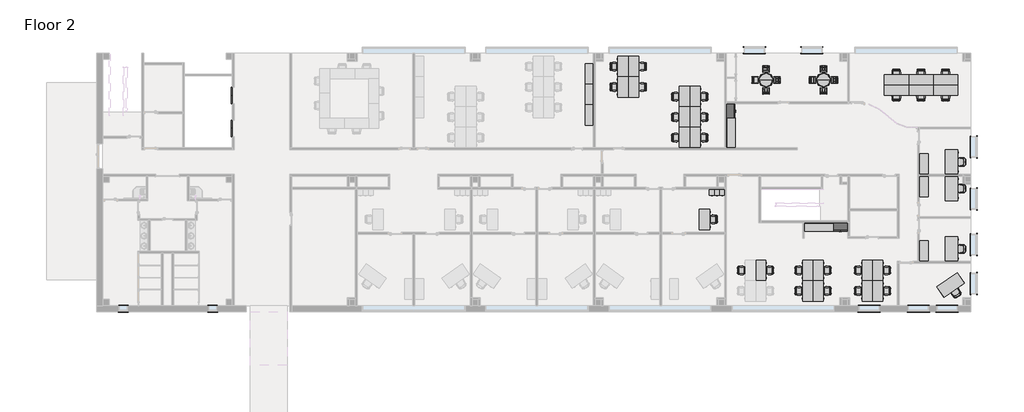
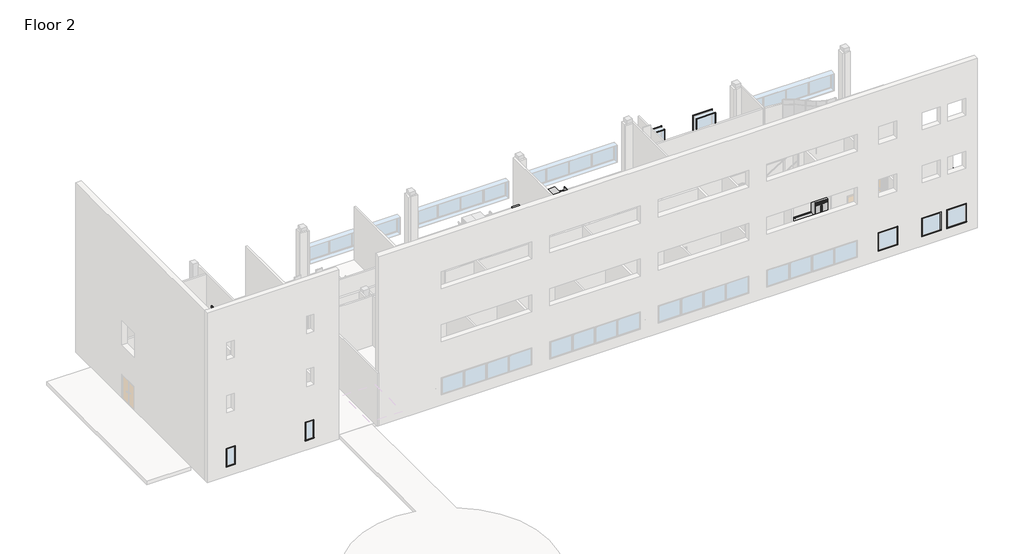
# One storey, part 7 of 7: 86 furniture elements, 26 proxies.
"""IFC4 building model written with IfcOpenShell, lengths in millimetres."""

from ifc_helpers import new_model, si_unit, origin, place, context, project, spatial, transform, mapped, element, save
from components import proxy_ae548678, proxy_0447ab4b, trim_window_exterior_flat_with_sill_05ca63db, trim_window_exterior_flat_with_sill_4912eb0d, trim_window_interior_flat_picture_frame_a1a3bc7c, trim_window_interior_flat_picture_frame_978fd00d, furniture_338da5bd, furniture_48aa8ab9, chair_executive_chair_executive_8d69e98c, chair_executive_chair_executive_a5be4872, chair_stacking_chair_stacking_76f41a28, chair_task_arms_chair_task_arms_fa5a08ef, chair_task_arms_chair_task_arms_3c69ee15, furniture_b725675f, furniture_6bf0da8d, furniture_0f0bb7e9, furniture_a9e97cbc, furniture_f1eb905c, furniture_e30ff25b, furniture_33f25304, furniture_65204735, furniture_a5b052b6, furniture_457a56de, furniture_77f0a01d

model = new_model("IFC4")

# Units and contexts
model_context = context("Model", 3, world=origin())
ifc_project = project(units=[si_unit("LENGTHUNIT", "METRE", prefix="MILLI")], contexts=[model_context])

# Site, building, storey
site = spatial("IfcSite", under=ifc_project)
building = spatial("IfcBuilding", under=site)
storey = spatial("IfcBuildingStorey", under=building, Name="Floor 2", Elevation=5486.4)

# Proxies
placement = place(None, origin())
proxy_shape = proxy_ae548678(model_context)
element("IfcBuildingElementProxy", 1, Name="Elevator-Center : 72\" x 114\" Hospital min.", ObjectType="Elevator-Center : 72\" x 114\" Hospital min.", at=placement, inside=storey, context=model_context, shape_type="MappedRepresentation", body=[
    mapped(proxy_shape, transform((6707.2192024, 51882.5975333, 5486.4), x_axis=(0.0, 1.0, 0.0), y_axis=(-1.0, 0.0, 0.0), z_axis=(0.0, 0.0, 1.0))),
])
element("IfcBuildingElementProxy", 2, Name="Elevator-Center : 72\" x 114\" Hospital min.", ObjectType="Elevator-Center : 72\" x 114\" Hospital min.", at=placement, inside=storey, context=model_context, shape_type="MappedRepresentation", body=[
    mapped(proxy_shape, transform((6707.2192024, 54320.9975333, 5486.4), x_axis=(0.0, 1.0, 0.0), y_axis=(-1.0, 0.0, 0.0), z_axis=(0.0, 0.0, 1.0))),
])
proxy_2_shape = proxy_0447ab4b(model_context)
element("IfcBuildingElementProxy", 3, Name="Refrigerator-Side-by-Side : 42\" Left Side Freezer", ObjectType="Refrigerator-Side-by-Side : 42\" Left Side Freezer", at=placement, inside=storey, context=model_context, shape_type="MappedRepresentation", body=[
    mapped(proxy_2_shape, transform((51838.2567024, 44868.311889, 5486.4), x_axis=(1.0, 0.0, 0.0), y_axis=(0.0, 1.0, 0.0), z_axis=(0.0, 0.0, 1.0))),
])
element("IfcBuildingElementProxy", 4, Name="Refrigerator-Side-by-Side : 42\" Left Side Freezer", ObjectType="Refrigerator-Side-by-Side : 42\" Left Side Freezer", at=placement, inside=storey, context=model_context, shape_type="MappedRepresentation", body=[
    mapped(proxy_2_shape, transform((43251.4692024, 53086.799389, 5486.4), x_axis=(0.0, 1.0, 0.0), y_axis=(-1.0, 0.0, 0.0), z_axis=(0.0, 0.0, 1.0))),
])
trim_window_exterior_flat_with_sill_shape = trim_window_exterior_flat_with_sill_05ca63db(model_context)
element("IfcBuildingElementProxy", 5, Name="Trim-Window-Exterior-Flat : with Sill", ObjectType="Trim-Window-Exterior-Flat : with Sill", at=placement, inside=storey, context=model_context, shape_type="MappedRepresentation", body=[
    mapped(trim_window_exterior_flat_with_sill_shape, transform((61956.9817024, 46544.711889, 7924.8), x_axis=(0.0, 1.0, 0.0), y_axis=(0.0, 0.0, 1.0), z_axis=(1.0, 0.0, 0.0))),
])
element("IfcBuildingElementProxy", 6, Name="Trim-Window-Exterior-Flat : with Sill", ObjectType="Trim-Window-Exterior-Flat : with Sill", at=placement, inside=storey, context=model_context, shape_type="MappedRepresentation", body=[
    mapped(trim_window_exterior_flat_with_sill_shape, transform((61956.9817024, 43141.111889, 7924.8), x_axis=(0.0, 1.0, 0.0), y_axis=(0.0, 0.0, 1.0), z_axis=(1.0, 0.0, 0.0))),
])
element("IfcBuildingElementProxy", 7, Name="Trim-Window-Exterior-Flat : with Sill", ObjectType="Trim-Window-Exterior-Flat : with Sill", at=placement, inside=storey, context=model_context, shape_type="MappedRepresentation", body=[
    mapped(trim_window_exterior_flat_with_sill_shape, transform((61956.9817024, 40245.511889, 7924.8), x_axis=(0.0, 1.0, 0.0), y_axis=(0.0, 0.0, 1.0), z_axis=(1.0, 0.0, 0.0))),
])
element("IfcBuildingElementProxy", 8, Name="Trim-Window-Exterior-Flat : with Sill", ObjectType="Trim-Window-Exterior-Flat : with Sill", at=placement, inside=storey, context=model_context, shape_type="MappedRepresentation", body=[
    mapped(trim_window_exterior_flat_with_sill_shape, transform((61956.9817024, 50405.511889, 7924.8), x_axis=(0.0, 1.0, 0.0), y_axis=(0.0, 0.0, 1.0), z_axis=(1.0, 0.0, 0.0))),
])
element("IfcBuildingElementProxy", 9, Name="Trim-Window-Exterior-Flat : with Sill", ObjectType="Trim-Window-Exterior-Flat : with Sill", at=placement, inside=storey, context=model_context, shape_type="MappedRepresentation", body=[
    mapped(trim_window_exterior_flat_with_sill_shape, transform((59742.4192024, 38164.299389, 7924.8), x_axis=(1.0, 0.0, 0.0), y_axis=(0.0, 0.0, 1.0), z_axis=(0.0, -1.0, 0.0))),
])
element("IfcBuildingElementProxy", 10, Name="Trim-Window-Exterior-Flat : with Sill", ObjectType="Trim-Window-Exterior-Flat : with Sill", at=placement, inside=storey, context=model_context, shape_type="MappedRepresentation", body=[
    mapped(trim_window_exterior_flat_with_sill_shape, transform((57608.8192024, 38164.299389, 7924.8), x_axis=(1.0, 0.0, 0.0), y_axis=(0.0, 0.0, 1.0), z_axis=(0.0, -1.0, 0.0))),
])
element("IfcBuildingElementProxy", 11, Name="Trim-Window-Exterior-Flat : with Sill", ObjectType="Trim-Window-Exterior-Flat : with Sill", at=placement, inside=storey, context=model_context, shape_type="MappedRepresentation", body=[
    mapped(trim_window_exterior_flat_with_sill_shape, transform((53951.2192024, 38164.299389, 7924.8), x_axis=(1.0, 0.0, 0.0), y_axis=(0.0, 0.0, 1.0), z_axis=(0.0, -1.0, 0.0))),
])
element("IfcBuildingElementProxy", 12, Name="Trim-Window-Exterior-Flat : with Sill", ObjectType="Trim-Window-Exterior-Flat : with Sill", at=placement, inside=storey, context=model_context, shape_type="MappedRepresentation", body=[
    mapped(trim_window_exterior_flat_with_sill_shape, transform((45423.1692024, 57820.724389, 7924.8), x_axis=(-1.0, 0.0, 0.0), y_axis=(0.0, 0.0, 1.0), z_axis=(0.0, 1.0, 0.0))),
])
element("IfcBuildingElementProxy", 13, Name="Trim-Window-Exterior-Flat : with Sill", ObjectType="Trim-Window-Exterior-Flat : with Sill", at=placement, inside=storey, context=model_context, shape_type="MappedRepresentation", body=[
    mapped(trim_window_exterior_flat_with_sill_shape, transform((49690.3692024, 57820.724389, 7924.8), x_axis=(-1.0, 0.0, 0.0), y_axis=(0.0, 0.0, 1.0), z_axis=(0.0, 1.0, 0.0))),
])
trim_window_exterior_flat_with_sill_2_shape = trim_window_exterior_flat_with_sill_4912eb0d(model_context)
element("IfcBuildingElementProxy", 14, Name="Trim-Window-Exterior-Flat : with Sill", ObjectType="Trim-Window-Exterior-Flat : with Sill", at=placement, inside=storey, context=model_context, shape_type="MappedRepresentation", body=[
    mapped(trim_window_exterior_flat_with_sill_2_shape, transform((-1446.1807976, 38164.299389, 7924.8), x_axis=(1.0, 0.0, 0.0), y_axis=(0.0, 0.0, 1.0), z_axis=(0.0, -1.0, 0.0))),
])
element("IfcBuildingElementProxy", 15, Name="Trim-Window-Exterior-Flat : with Sill", ObjectType="Trim-Window-Exterior-Flat : with Sill", at=placement, inside=storey, context=model_context, shape_type="MappedRepresentation", body=[
    mapped(trim_window_exterior_flat_with_sill_2_shape, transform((5189.5692024, 38164.299389, 7924.8), x_axis=(1.0, 0.0, 0.0), y_axis=(0.0, 0.0, 1.0), z_axis=(0.0, -1.0, 0.0))),
])
trim_window_interior_flat_picture_frame_shape = trim_window_interior_flat_picture_frame_a1a3bc7c(model_context)
element("IfcBuildingElementProxy", 16, Name="Trim-Window-Interior-Flat : Picture Frame", ObjectType="Trim-Window-Interior-Flat : Picture Frame", at=placement, inside=storey, context=model_context, shape_type="MappedRepresentation", body=[
    mapped(trim_window_interior_flat_picture_frame_shape, transform((61502.9567024, 46544.711889, 7924.8), x_axis=(0.0, -1.0, 0.0), y_axis=(0.0, 0.0, 1.0), z_axis=(-1.0, 0.0, 0.0))),
])
element("IfcBuildingElementProxy", 17, Name="Trim-Window-Interior-Flat : Picture Frame", ObjectType="Trim-Window-Interior-Flat : Picture Frame", at=placement, inside=storey, context=model_context, shape_type="MappedRepresentation", body=[
    mapped(trim_window_interior_flat_picture_frame_shape, transform((61502.9567024, 43141.111889, 7924.8), x_axis=(0.0, -1.0, 0.0), y_axis=(0.0, 0.0, 1.0), z_axis=(-1.0, 0.0, 0.0))),
])
element("IfcBuildingElementProxy", 18, Name="Trim-Window-Interior-Flat : Picture Frame", ObjectType="Trim-Window-Interior-Flat : Picture Frame", at=placement, inside=storey, context=model_context, shape_type="MappedRepresentation", body=[
    mapped(trim_window_interior_flat_picture_frame_shape, transform((61502.9567024, 40245.511889, 7924.8), x_axis=(0.0, -1.0, 0.0), y_axis=(0.0, 0.0, 1.0), z_axis=(-1.0, 0.0, 0.0))),
])
element("IfcBuildingElementProxy", 19, Name="Trim-Window-Interior-Flat : Picture Frame", ObjectType="Trim-Window-Interior-Flat : Picture Frame", at=placement, inside=storey, context=model_context, shape_type="MappedRepresentation", body=[
    mapped(trim_window_interior_flat_picture_frame_shape, transform((61502.9567024, 50405.511889, 7924.8), x_axis=(0.0, -1.0, 0.0), y_axis=(0.0, 0.0, 1.0), z_axis=(-1.0, 0.0, 0.0))),
])
element("IfcBuildingElementProxy", 20, Name="Trim-Window-Interior-Flat : Picture Frame", ObjectType="Trim-Window-Interior-Flat : Picture Frame", at=placement, inside=storey, context=model_context, shape_type="MappedRepresentation", body=[
    mapped(trim_window_interior_flat_picture_frame_shape, transform((59742.4192024, 38618.324389, 7924.8), x_axis=(-1.0, 0.0, 0.0), y_axis=(0.0, 0.0, 1.0), z_axis=(0.0, 1.0, 0.0))),
])
element("IfcBuildingElementProxy", 21, Name="Trim-Window-Interior-Flat : Picture Frame", ObjectType="Trim-Window-Interior-Flat : Picture Frame", at=placement, inside=storey, context=model_context, shape_type="MappedRepresentation", body=[
    mapped(trim_window_interior_flat_picture_frame_shape, transform((57608.8192024, 38618.324389, 7924.8), x_axis=(-1.0, 0.0, 0.0), y_axis=(0.0, 0.0, 1.0), z_axis=(0.0, 1.0, 0.0))),
])
element("IfcBuildingElementProxy", 22, Name="Trim-Window-Interior-Flat : Picture Frame", ObjectType="Trim-Window-Interior-Flat : Picture Frame", at=placement, inside=storey, context=model_context, shape_type="MappedRepresentation", body=[
    mapped(trim_window_interior_flat_picture_frame_shape, transform((53951.2192024, 38618.324389, 7924.8), x_axis=(-1.0, 0.0, 0.0), y_axis=(0.0, 0.0, 1.0), z_axis=(0.0, 1.0, 0.0))),
])
element("IfcBuildingElementProxy", 23, Name="Trim-Window-Interior-Flat : Picture Frame", ObjectType="Trim-Window-Interior-Flat : Picture Frame", at=placement, inside=storey, context=model_context, shape_type="MappedRepresentation", body=[
    mapped(trim_window_interior_flat_picture_frame_shape, transform((45423.1692024, 57366.699389, 7924.8), x_axis=(1.0, 0.0, 0.0), y_axis=(0.0, 0.0, 1.0), z_axis=(0.0, -1.0, 0.0))),
])
element("IfcBuildingElementProxy", 24, Name="Trim-Window-Interior-Flat : Picture Frame", ObjectType="Trim-Window-Interior-Flat : Picture Frame", at=placement, inside=storey, context=model_context, shape_type="MappedRepresentation", body=[
    mapped(trim_window_interior_flat_picture_frame_shape, transform((49690.3692024, 57366.699389, 7924.8), x_axis=(1.0, 0.0, 0.0), y_axis=(0.0, 0.0, 1.0), z_axis=(0.0, -1.0, 0.0))),
])
trim_window_interior_flat_picture_frame_2_shape = trim_window_interior_flat_picture_frame_978fd00d(model_context)
element("IfcBuildingElementProxy", 25, Name="Trim-Window-Interior-Flat : Picture Frame", ObjectType="Trim-Window-Interior-Flat : Picture Frame", at=placement, inside=storey, context=model_context, shape_type="MappedRepresentation", body=[
    mapped(trim_window_interior_flat_picture_frame_2_shape, transform((-1446.1807976, 38618.324389, 7924.8), x_axis=(-1.0, 0.0, 0.0), y_axis=(0.0, 0.0, 1.0), z_axis=(0.0, 1.0, 0.0))),
])
element("IfcBuildingElementProxy", 26, Name="Trim-Window-Interior-Flat : Picture Frame", ObjectType="Trim-Window-Interior-Flat : Picture Frame", at=placement, inside=storey, context=model_context, shape_type="MappedRepresentation", body=[
    mapped(trim_window_interior_flat_picture_frame_2_shape, transform((5189.5692024, 38618.324389, 7924.8), x_axis=(-1.0, 0.0, 0.0), y_axis=(0.0, 0.0, 1.0), z_axis=(0.0, 1.0, 0.0))),
])

# Furniture
furniture_shape = furniture_338da5bd(model_context)
element("IfcFurniture", 27, ObjectType="Base Cabinet-Double Door & 2 Drawer : 30\"", at=placement, inside=storey, context=model_context, shape_type="MappedRepresentation", body=[
    mapped(furniture_shape, transform((49498.5939974, 44766.711889, 5486.4), x_axis=(1.0, 0.0, 0.0), y_axis=(0.0, 1.0, 0.0), z_axis=(0.0, 0.0, 1.0))),
])
element("IfcFurniture", 28, ObjectType="Base Cabinet-Double Door & 2 Drawer : 30\"", at=placement, inside=storey, context=model_context, shape_type="MappedRepresentation", body=[
    mapped(furniture_shape, transform((50260.5939974, 44766.711889, 5486.4), x_axis=(1.0, 0.0, 0.0), y_axis=(0.0, 1.0, 0.0), z_axis=(0.0, 0.0, 1.0))),
])
element("IfcFurniture", 29, ObjectType="Base Cabinet-Double Door & 2 Drawer : 30\"", at=placement, inside=storey, context=model_context, shape_type="MappedRepresentation", body=[
    mapped(furniture_shape, transform((43353.0692024, 50691.5741841, 5486.4), x_axis=(0.0, 1.0, 0.0), y_axis=(-1.0, 0.0, 0.0), z_axis=(0.0, 0.0, 1.0))),
])
element("IfcFurniture", 30, ObjectType="Base Cabinet-Double Door & 2 Drawer : 30\"", at=placement, inside=storey, context=model_context, shape_type="MappedRepresentation", body=[
    mapped(furniture_shape, transform((43353.0692024, 51453.5741841, 5486.4), x_axis=(0.0, 1.0, 0.0), y_axis=(-1.0, 0.0, 0.0), z_axis=(0.0, 0.0, 1.0))),
])
furniture_2_shape = furniture_48aa8ab9(model_context)
element("IfcFurniture", 31, ObjectType="Cabinet-File 3 Drawer : 15\" x 18\"", at=placement, inside=storey, context=model_context, shape_type="MappedRepresentation", body=[
    mapped(furniture_2_shape, transform((42910.8477553, 47175.7961891, 5486.4), x_axis=(-1.0, 0.0, 0.0), y_axis=(0.0, -1.0, 0.0), z_axis=(0.0, 0.0, 1.0))),
])
element("IfcFurniture", 32, ObjectType="Cabinet-File 3 Drawer : 15\" x 18\"", at=placement, inside=storey, context=model_context, shape_type="MappedRepresentation", body=[
    mapped(furniture_2_shape, transform((42529.8477553, 47175.7961891, 5486.4), x_axis=(-1.0, 0.0, 0.0), y_axis=(0.0, -1.0, 0.0), z_axis=(0.0, 0.0, 1.0))),
])
element("IfcFurniture", 33, ObjectType="Cabinet-File 3 Drawer : 15\" x 18\"", at=placement, inside=storey, context=model_context, shape_type="MappedRepresentation", body=[
    mapped(furniture_2_shape, transform((42148.8477553, 47175.7961891, 5486.4), x_axis=(-1.0, 0.0, 0.0), y_axis=(0.0, -1.0, 0.0), z_axis=(0.0, 0.0, 1.0))),
])
chair_executive_chair_executive_shape = chair_executive_chair_executive_8d69e98c(model_context)
element("IfcFurniture", 34, ObjectType="Chair-Executive : Chair-Executive", at=placement, inside=storey, context=model_context, shape_type="MappedRepresentation", body=[
    mapped(chair_executive_chair_executive_shape, transform((60783.2356072, 47167.3085693, 5486.4), x_axis=(0.0, 1.0, 0.0), y_axis=(-1.0, 0.0, 0.0), z_axis=(0.0, 0.0, 1.0))),
])
chair_executive_chair_executive_2_shape = chair_executive_chair_executive_a5be4872(model_context)
element("IfcFurniture", 35, ObjectType="Chair-Executive : Chair-Executive", at=placement, inside=storey, context=model_context, shape_type="MappedRepresentation", body=[
    mapped(chair_executive_chair_executive_2_shape, transform((60510.0435605, 39658.0167973, 5486.4), x_axis=(-0.819152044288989, -0.57357643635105, 0.0), y_axis=(0.57357643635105, -0.819152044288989, 0.0), z_axis=(0.0, 0.0, 1.0))),
])
element("IfcFurniture", 36, ObjectType="Chair-Executive : Chair-Executive", at=placement, inside=storey, context=model_context, shape_type="MappedRepresentation", body=[
    mapped(chair_executive_chair_executive_2_shape, transform((60783.2356072, 42969.3652087, 5486.4), x_axis=(0.0, -1.0, 0.0), y_axis=(1.0, 0.0, 0.0), z_axis=(0.0, 0.0, 1.0))),
])
element("IfcFurniture", 37, ObjectType="Chair-Executive : Chair-Executive", at=placement, inside=storey, context=model_context, shape_type="MappedRepresentation", body=[
    mapped(chair_executive_chair_executive_2_shape, transform((60783.2356072, 49427.3152087, 5486.4), x_axis=(0.0, -1.0, 0.0), y_axis=(1.0, 0.0, 0.0), z_axis=(0.0, 0.0, 1.0))),
])
chair_stacking_chair_stacking_shape = chair_stacking_chair_stacking_76f41a28(model_context)
element("IfcFurniture", 38, ObjectType="Chair-Stacking : Chair-Stacking", at=placement, inside=storey, context=model_context, shape_type="MappedRepresentation", body=[
    mapped(chair_stacking_chair_stacking_shape, transform((50739.3683827, 54457.5746587, 5486.4), x_axis=(1.0, 0.0, 0.0), y_axis=(0.0, 1.0, 0.0), z_axis=(0.0, 0.0, 1.0))),
])
element("IfcFurniture", 39, ObjectType="Chair-Stacking : Chair-Stacking", at=placement, inside=storey, context=model_context, shape_type="MappedRepresentation", body=[
    mapped(chair_stacking_chair_stacking_shape, transform((51482.0706259, 55558.3752626, 5486.4), x_axis=(0.0, 1.0, 0.0), y_axis=(-1.0, 0.0, 0.0), z_axis=(0.0, 0.0, 1.0))),
])
element("IfcFurniture", 40, ObjectType="Chair-Stacking : Chair-Stacking", at=placement, inside=storey, context=model_context, shape_type="MappedRepresentation", body=[
    mapped(chair_stacking_chair_stacking_shape, transform((50381.270022, 56301.0775058, 5486.4), x_axis=(-1.0, 0.0, 0.0), y_axis=(0.0, -1.0, 0.0), z_axis=(0.0, 0.0, 1.0))),
])
element("IfcFurniture", 41, ObjectType="Chair-Stacking : Chair-Stacking", at=placement, inside=storey, context=model_context, shape_type="MappedRepresentation", body=[
    mapped(chair_stacking_chair_stacking_shape, transform((49638.5677788, 55200.276902, 5486.4), x_axis=(0.0, -1.0, 0.0), y_axis=(1.0, 0.0, 0.0), z_axis=(0.0, 0.0, 1.0))),
])
element("IfcFurniture", 42, ObjectType="Chair-Stacking : Chair-Stacking", at=placement, inside=storey, context=model_context, shape_type="MappedRepresentation", body=[
    mapped(chair_stacking_chair_stacking_shape, transform((46472.1683827, 54457.5746587, 5486.4), x_axis=(1.0, 0.0, 0.0), y_axis=(0.0, 1.0, 0.0), z_axis=(0.0, 0.0, 1.0))),
])
element("IfcFurniture", 43, ObjectType="Chair-Stacking : Chair-Stacking", at=placement, inside=storey, context=model_context, shape_type="MappedRepresentation", body=[
    mapped(chair_stacking_chair_stacking_shape, transform((47214.8706259, 55558.3752626, 5486.4), x_axis=(0.0, 1.0, 0.0), y_axis=(-1.0, 0.0, 0.0), z_axis=(0.0, 0.0, 1.0))),
])
element("IfcFurniture", 44, ObjectType="Chair-Stacking : Chair-Stacking", at=placement, inside=storey, context=model_context, shape_type="MappedRepresentation", body=[
    mapped(chair_stacking_chair_stacking_shape, transform((46114.070022, 56301.0775058, 5486.4), x_axis=(-1.0, 0.0, 0.0), y_axis=(0.0, -1.0, 0.0), z_axis=(0.0, 0.0, 1.0))),
])
element("IfcFurniture", 45, ObjectType="Chair-Stacking : Chair-Stacking", at=placement, inside=storey, context=model_context, shape_type="MappedRepresentation", body=[
    mapped(chair_stacking_chair_stacking_shape, transform((45371.3677788, 55200.276902, 5486.4), x_axis=(0.0, -1.0, 0.0), y_axis=(1.0, 0.0, 0.0), z_axis=(0.0, 0.0, 1.0))),
])
chair_task_arms_chair_task_arms_shape = chair_task_arms_chair_task_arms_fa5a08ef(model_context)
element("IfcFurniture", 46, ObjectType="Chair-Task Arms : Chair-Task Arms", at=placement, inside=storey, context=model_context, shape_type="MappedRepresentation", body=[
    mapped(chair_task_arms_chair_task_arms_shape, transform((41712.8009489, 50950.3210693, 5486.4), x_axis=(0.0, 1.0, 0.0), y_axis=(-1.0, 0.0, 0.0), z_axis=(0.0, 0.0, 1.0))),
])
element("IfcFurniture", 47, ObjectType="Chair-Task Arms : Chair-Task Arms", at=placement, inside=storey, context=model_context, shape_type="MappedRepresentation", body=[
    mapped(chair_task_arms_chair_task_arms_shape, transform((37134.7797162, 56233.5210693, 5486.4), x_axis=(0.0, 1.0, 0.0), y_axis=(-1.0, 0.0, 0.0), z_axis=(0.0, 0.0, 1.0))),
])
element("IfcFurniture", 48, ObjectType="Chair-Task Arms : Chair-Task Arms", at=placement, inside=storey, context=model_context, shape_type="MappedRepresentation", body=[
    mapped(chair_task_arms_chair_task_arms_shape, transform((37134.7797162, 54709.5210693, 5486.4), x_axis=(0.0, 1.0, 0.0), y_axis=(-1.0, 0.0, 0.0), z_axis=(0.0, 0.0, 1.0))),
])
element("IfcFurniture", 49, ObjectType="Chair-Task Arms : Chair-Task Arms", at=placement, inside=storey, context=model_context, shape_type="MappedRepresentation", body=[
    mapped(chair_task_arms_chair_task_arms_shape, transform((41712.8009489, 52474.3210693, 5486.4), x_axis=(0.0, 1.0, 0.0), y_axis=(-1.0, 0.0, 0.0), z_axis=(0.0, 0.0, 1.0))),
])
element("IfcFurniture", 50, ObjectType="Chair-Task Arms : Chair-Task Arms", at=placement, inside=storey, context=model_context, shape_type="MappedRepresentation", body=[
    mapped(chair_task_arms_chair_task_arms_shape, transform((41712.8009489, 53998.3210693, 5486.4), x_axis=(0.0, 1.0, 0.0), y_axis=(-1.0, 0.0, 0.0), z_axis=(0.0, 0.0, 1.0))),
])
element("IfcFurniture", 51, ObjectType="Chair-Task Arms : Chair-Task Arms", at=placement, inside=storey, context=model_context, shape_type="MappedRepresentation", body=[
    mapped(chair_task_arms_chair_task_arms_shape, transform((57656.4910544, 54082.2962791, 5486.4), x_axis=(1.0, 0.0, 0.0), y_axis=(0.0, 1.0, 0.0), z_axis=(0.0, 0.0, 1.0))),
])
element("IfcFurniture", 52, ObjectType="Chair-Task Arms : Chair-Task Arms", at=placement, inside=storey, context=model_context, shape_type="MappedRepresentation", body=[
    mapped(chair_task_arms_chair_task_arms_shape, transform((59485.2910544, 54082.2962791, 5486.4), x_axis=(1.0, 0.0, 0.0), y_axis=(0.0, 1.0, 0.0), z_axis=(0.0, 0.0, 1.0))),
])
element("IfcFurniture", 53, ObjectType="Chair-Task Arms : Chair-Task Arms", at=placement, inside=storey, context=model_context, shape_type="MappedRepresentation", body=[
    mapped(chair_task_arms_chair_task_arms_shape, transform((55827.6910544, 54082.2962791, 5486.4), x_axis=(1.0, 0.0, 0.0), y_axis=(0.0, 1.0, 0.0), z_axis=(0.0, 0.0, 1.0))),
])
element("IfcFurniture", 54, ObjectType="Chair-Task Arms : Chair-Task Arms", at=placement, inside=storey, context=model_context, shape_type="MappedRepresentation", body=[
    mapped(chair_task_arms_chair_task_arms_shape, transform((46597.1240822, 41090.6046547, 5486.4), x_axis=(0.0, 1.0, 0.0), y_axis=(-1.0, 0.0, 0.0), z_axis=(0.0, 0.0, 1.0))),
])
element("IfcFurniture", 55, ObjectType="Chair-Task Arms : Chair-Task Arms", at=placement, inside=storey, context=model_context, shape_type="MappedRepresentation", body=[
    mapped(chair_task_arms_chair_task_arms_shape, transform((55283.9240822, 41090.6046547, 5486.4), x_axis=(0.0, 1.0, 0.0), y_axis=(-1.0, 0.0, 0.0), z_axis=(0.0, 0.0, 1.0))),
])
element("IfcFurniture", 56, ObjectType="Chair-Task Arms : Chair-Task Arms", at=placement, inside=storey, context=model_context, shape_type="MappedRepresentation", body=[
    mapped(chair_task_arms_chair_task_arms_shape, transform((55283.9240822, 39566.6046547, 5486.4), x_axis=(0.0, 1.0, 0.0), y_axis=(-1.0, 0.0, 0.0), z_axis=(0.0, 0.0, 1.0))),
])
element("IfcFurniture", 57, ObjectType="Chair-Task Arms : Chair-Task Arms", at=placement, inside=storey, context=model_context, shape_type="MappedRepresentation", body=[
    mapped(chair_task_arms_chair_task_arms_shape, transform((50864.3240822, 41090.6046547, 5486.4), x_axis=(0.0, 1.0, 0.0), y_axis=(-1.0, 0.0, 0.0), z_axis=(0.0, 0.0, 1.0))),
])
element("IfcFurniture", 58, ObjectType="Chair-Task Arms : Chair-Task Arms", at=placement, inside=storey, context=model_context, shape_type="MappedRepresentation", body=[
    mapped(chair_task_arms_chair_task_arms_shape, transform((50864.3240822, 39566.6046547, 5486.4), x_axis=(0.0, 1.0, 0.0), y_axis=(-1.0, 0.0, 0.0), z_axis=(0.0, 0.0, 1.0))),
])
chair_task_arms_chair_task_arms_2_shape = chair_task_arms_chair_task_arms_3c69ee15(model_context)
element("IfcFurniture", 59, ObjectType="Chair-Task Arms : Chair-Task Arms", at=placement, inside=storey, context=model_context, shape_type="MappedRepresentation", body=[
    mapped(chair_task_arms_chair_task_arms_2_shape, transform((42416.340104, 45161.7027087, 5486.4), x_axis=(0.0, -1.0, 0.0), y_axis=(1.0, 0.0, 0.0), z_axis=(0.0, 0.0, 1.0))),
])
element("IfcFurniture", 60, ObjectType="Chair-Task Arms : Chair-Task Arms", at=placement, inside=storey, context=model_context, shape_type="MappedRepresentation", body=[
    mapped(chair_task_arms_chair_task_arms_2_shape, transform((39541.3091456, 50950.3210693, 5486.4), x_axis=(0.0, 1.0, 0.0), y_axis=(-1.0, 0.0, 0.0), z_axis=(0.0, 0.0, 1.0))),
])
element("IfcFurniture", 61, ObjectType="Chair-Task Arms : Chair-Task Arms", at=placement, inside=storey, context=model_context, shape_type="MappedRepresentation", body=[
    mapped(chair_task_arms_chair_task_arms_2_shape, transform((34963.2879129, 56233.5210693, 5486.4), x_axis=(0.0, 1.0, 0.0), y_axis=(-1.0, 0.0, 0.0), z_axis=(0.0, 0.0, 1.0))),
])
element("IfcFurniture", 62, ObjectType="Chair-Task Arms : Chair-Task Arms", at=placement, inside=storey, context=model_context, shape_type="MappedRepresentation", body=[
    mapped(chair_task_arms_chair_task_arms_2_shape, transform((34963.2879129, 54709.5210693, 5486.4), x_axis=(0.0, 1.0, 0.0), y_axis=(-1.0, 0.0, 0.0), z_axis=(0.0, 0.0, 1.0))),
])
element("IfcFurniture", 63, ObjectType="Chair-Task Arms : Chair-Task Arms", at=placement, inside=storey, context=model_context, shape_type="MappedRepresentation", body=[
    mapped(chair_task_arms_chair_task_arms_2_shape, transform((39541.3091456, 52474.3210693, 5486.4), x_axis=(0.0, 1.0, 0.0), y_axis=(-1.0, 0.0, 0.0), z_axis=(0.0, 0.0, 1.0))),
])
element("IfcFurniture", 64, ObjectType="Chair-Task Arms : Chair-Task Arms", at=placement, inside=storey, context=model_context, shape_type="MappedRepresentation", body=[
    mapped(chair_task_arms_chair_task_arms_2_shape, transform((39541.3091456, 53998.3210693, 5486.4), x_axis=(0.0, 1.0, 0.0), y_axis=(-1.0, 0.0, 0.0), z_axis=(0.0, 0.0, 1.0))),
])
element("IfcFurniture", 65, ObjectType="Chair-Task Arms : Chair-Task Arms", at=placement, inside=storey, context=model_context, shape_type="MappedRepresentation", body=[
    mapped(chair_task_arms_chair_task_arms_2_shape, transform((57656.4910544, 55914.3558855, 5486.4), x_axis=(1.0, 0.0, 0.0), y_axis=(0.0, 1.0, 0.0), z_axis=(0.0, 0.0, 1.0))),
])
element("IfcFurniture", 66, ObjectType="Chair-Task Arms : Chair-Task Arms", at=placement, inside=storey, context=model_context, shape_type="MappedRepresentation", body=[
    mapped(chair_task_arms_chair_task_arms_2_shape, transform((59485.2910544, 55914.3558855, 5486.4), x_axis=(1.0, 0.0, 0.0), y_axis=(0.0, 1.0, 0.0), z_axis=(0.0, 0.0, 1.0))),
])
element("IfcFurniture", 67, ObjectType="Chair-Task Arms : Chair-Task Arms", at=placement, inside=storey, context=model_context, shape_type="MappedRepresentation", body=[
    mapped(chair_task_arms_chair_task_arms_2_shape, transform((55827.6910544, 55914.3558855, 5486.4), x_axis=(1.0, 0.0, 0.0), y_axis=(0.0, 1.0, 0.0), z_axis=(0.0, 0.0, 1.0))),
])
element("IfcFurniture", 68, ObjectType="Chair-Task Arms : Chair-Task Arms", at=placement, inside=storey, context=model_context, shape_type="MappedRepresentation", body=[
    mapped(chair_task_arms_chair_task_arms_2_shape, transform((44425.6322789, 41090.6046547, 5486.4), x_axis=(0.0, 1.0, 0.0), y_axis=(-1.0, 0.0, 0.0), z_axis=(0.0, 0.0, 1.0))),
])
element("IfcFurniture", 69, ObjectType="Chair-Task Arms : Chair-Task Arms", at=placement, inside=storey, context=model_context, shape_type="MappedRepresentation", body=[
    mapped(chair_task_arms_chair_task_arms_2_shape, transform((53112.4322789, 41090.6046547, 5486.4), x_axis=(0.0, 1.0, 0.0), y_axis=(-1.0, 0.0, 0.0), z_axis=(0.0, 0.0, 1.0))),
])
element("IfcFurniture", 70, ObjectType="Chair-Task Arms : Chair-Task Arms", at=placement, inside=storey, context=model_context, shape_type="MappedRepresentation", body=[
    mapped(chair_task_arms_chair_task_arms_2_shape, transform((53112.4322789, 39566.6046547, 5486.4), x_axis=(0.0, 1.0, 0.0), y_axis=(-1.0, 0.0, 0.0), z_axis=(0.0, 0.0, 1.0))),
])
element("IfcFurniture", 71, ObjectType="Chair-Task Arms : Chair-Task Arms", at=placement, inside=storey, context=model_context, shape_type="MappedRepresentation", body=[
    mapped(chair_task_arms_chair_task_arms_2_shape, transform((48692.8322789, 41090.6046547, 5486.4), x_axis=(0.0, 1.0, 0.0), y_axis=(-1.0, 0.0, 0.0), z_axis=(0.0, 0.0, 1.0))),
])
element("IfcFurniture", 72, ObjectType="Chair-Task Arms : Chair-Task Arms", at=placement, inside=storey, context=model_context, shape_type="MappedRepresentation", body=[
    mapped(chair_task_arms_chair_task_arms_2_shape, transform((48692.8322789, 39566.6046547, 5486.4), x_axis=(0.0, 1.0, 0.0), y_axis=(-1.0, 0.0, 0.0), z_axis=(0.0, 0.0, 1.0))),
])
furniture_3_shape = furniture_b725675f(model_context)
element("IfcFurniture", 73, ObjectType="Counter Top : 24\" Depth", at=placement, inside=storey, context=model_context, shape_type="MappedRepresentation", body=[
    mapped(furniture_3_shape, transform((50336.7939974, 44766.711889, 5486.4), x_axis=(1.0, 0.0, 0.0), y_axis=(0.0, 1.0, 0.0), z_axis=(0.0, 0.0, 1.0))),
])
furniture_4_shape = furniture_6bf0da8d(model_context)
element("IfcFurniture", 74, ObjectType="Counter Top : 24\" Depth", at=placement, inside=storey, context=model_context, shape_type="MappedRepresentation", body=[
    mapped(furniture_4_shape, transform((43353.0692024, 51529.7741841, 5486.4), x_axis=(0.0, 1.0, 0.0), y_axis=(-1.0, 0.0, 0.0), z_axis=(0.0, 0.0, 1.0))),
])
furniture_5_shape = furniture_0f0bb7e9(model_context)
element("IfcFurniture", 75, ObjectType="Credenza : 60\" x 24\"", at=placement, inside=storey, context=model_context, shape_type="MappedRepresentation", body=[
    mapped(furniture_5_shape, transform((58024.5620302, 42616.4301267, 5486.4), x_axis=(0.0, 1.0, 0.0), y_axis=(-1.0, 0.0, 0.0), z_axis=(0.0, 0.0, 1.0))),
])
element("IfcFurniture", 76, ObjectType="Credenza : 60\" x 24\"", at=placement, inside=storey, context=model_context, shape_type="MappedRepresentation", body=[
    mapped(furniture_5_shape, transform((58024.5620302, 49074.3801267, 5486.4), x_axis=(0.0, 1.0, 0.0), y_axis=(-1.0, 0.0, 0.0), z_axis=(0.0, 0.0, 1.0))),
])
furniture_6_shape = furniture_a9e97cbc(model_context)
element("IfcFurniture", 77, ObjectType="Credenza : 60\" x 24\"", at=placement, inside=storey, context=model_context, shape_type="MappedRepresentation", body=[
    mapped(furniture_6_shape, transform((58024.5620302, 47520.2436513, 5486.4), x_axis=(0.0, -1.0, 0.0), y_axis=(1.0, 0.0, 0.0), z_axis=(0.0, 0.0, 1.0))),
])
element("IfcFurniture", 78, ObjectType="Credenza : 60\" x 24\"", at=placement, inside=storey, context=model_context, shape_type="MappedRepresentation", body=[
    mapped(furniture_6_shape, transform((33201.1888745, 52709.7551267, 5486.4), x_axis=(0.0, 1.0, 0.0), y_axis=(-1.0, 0.0, 0.0), z_axis=(0.0, 0.0, 1.0))),
])
element("IfcFurniture", 79, ObjectType="Credenza : 60\" x 24\"", at=placement, inside=storey, context=model_context, shape_type="MappedRepresentation", body=[
    mapped(furniture_6_shape, transform((33201.1888745, 54233.7551267, 5486.4), x_axis=(0.0, 1.0, 0.0), y_axis=(-1.0, 0.0, 0.0), z_axis=(0.0, 0.0, 1.0))),
])
element("IfcFurniture", 80, ObjectType="Credenza : 60\" x 24\"", at=placement, inside=storey, context=model_context, shape_type="MappedRepresentation", body=[
    mapped(furniture_6_shape, transform((33201.1888745, 55757.7551267, 5486.4), x_axis=(0.0, 1.0, 0.0), y_axis=(-1.0, 0.0, 0.0), z_axis=(0.0, 0.0, 1.0))),
])
furniture_7_shape = furniture_f1eb905c(model_context)
element("IfcFurniture", 81, ObjectType="Desk : 60\" x 30\"", at=placement, inside=storey, context=model_context, shape_type="MappedRepresentation", body=[
    mapped(furniture_7_shape, transform((41389.0550473, 50329.311889, 5486.4), x_axis=(0.0, 1.0, 0.0), y_axis=(-1.0, 0.0, 0.0), z_axis=(0.0, 0.0, 1.0))),
])
element("IfcFurniture", 82, ObjectType="Desk : 60\" x 30\"", at=placement, inside=storey, context=model_context, shape_type="MappedRepresentation", body=[
    mapped(furniture_7_shape, transform((36811.0338145, 55612.511889, 5486.4), x_axis=(0.0, 1.0, 0.0), y_axis=(-1.0, 0.0, 0.0), z_axis=(0.0, 0.0, 1.0))),
])
element("IfcFurniture", 83, ObjectType="Desk : 60\" x 30\"", at=placement, inside=storey, context=model_context, shape_type="MappedRepresentation", body=[
    mapped(furniture_7_shape, transform((36811.0338145, 54088.511889, 5486.4), x_axis=(0.0, 1.0, 0.0), y_axis=(-1.0, 0.0, 0.0), z_axis=(0.0, 0.0, 1.0))),
])
element("IfcFurniture", 84, ObjectType="Desk : 60\" x 30\"", at=placement, inside=storey, context=model_context, shape_type="MappedRepresentation", body=[
    mapped(furniture_7_shape, transform((41389.0550473, 51853.311889, 5486.4), x_axis=(0.0, 1.0, 0.0), y_axis=(-1.0, 0.0, 0.0), z_axis=(0.0, 0.0, 1.0))),
])
element("IfcFurniture", 85, ObjectType="Desk : 60\" x 30\"", at=placement, inside=storey, context=model_context, shape_type="MappedRepresentation", body=[
    mapped(furniture_7_shape, transform((41389.0550473, 53377.311889, 5486.4), x_axis=(0.0, 1.0, 0.0), y_axis=(-1.0, 0.0, 0.0), z_axis=(0.0, 0.0, 1.0))),
])
element("IfcFurniture", 86, ObjectType="Desk : 60\" x 30\"", at=placement, inside=storey, context=model_context, shape_type="MappedRepresentation", body=[
    mapped(furniture_7_shape, transform((46273.3781805, 40469.5954744, 5486.4), x_axis=(0.0, 1.0, 0.0), y_axis=(-1.0, 0.0, 0.0), z_axis=(0.0, 0.0, 1.0))),
])
element("IfcFurniture", 87, ObjectType="Desk : 60\" x 30\"", at=placement, inside=storey, context=model_context, shape_type="MappedRepresentation", body=[
    mapped(furniture_7_shape, transform((54960.1781805, 40469.5954744, 5486.4), x_axis=(0.0, 1.0, 0.0), y_axis=(-1.0, 0.0, 0.0), z_axis=(0.0, 0.0, 1.0))),
])
element("IfcFurniture", 88, ObjectType="Desk : 60\" x 30\"", at=placement, inside=storey, context=model_context, shape_type="MappedRepresentation", body=[
    mapped(furniture_7_shape, transform((54960.1781805, 38945.5954744, 5486.4), x_axis=(0.0, 1.0, 0.0), y_axis=(-1.0, 0.0, 0.0), z_axis=(0.0, 0.0, 1.0))),
])
element("IfcFurniture", 89, ObjectType="Desk : 60\" x 30\"", at=placement, inside=storey, context=model_context, shape_type="MappedRepresentation", body=[
    mapped(furniture_7_shape, transform((50540.5781805, 40469.5954744, 5486.4), x_axis=(0.0, 1.0, 0.0), y_axis=(-1.0, 0.0, 0.0), z_axis=(0.0, 0.0, 1.0))),
])
element("IfcFurniture", 90, ObjectType="Desk : 60\" x 30\"", at=placement, inside=storey, context=model_context, shape_type="MappedRepresentation", body=[
    mapped(furniture_7_shape, transform((50540.5781805, 38945.5954744, 5486.4), x_axis=(0.0, 1.0, 0.0), y_axis=(-1.0, 0.0, 0.0), z_axis=(0.0, 0.0, 1.0))),
])
furniture_8_shape = furniture_e30ff25b(model_context)
element("IfcFurniture", 91, ObjectType="Desk : 60\" x 30\"", at=placement, inside=storey, context=model_context, shape_type="MappedRepresentation", body=[
    mapped(furniture_8_shape, transform((42092.5942024, 45782.711889, 5486.4), x_axis=(0.0, -1.0, 0.0), y_axis=(1.0, 0.0, 0.0), z_axis=(0.0, 0.0, 1.0))),
])
element("IfcFurniture", 92, ObjectType="Desk : 60\" x 30\"", at=placement, inside=storey, context=model_context, shape_type="MappedRepresentation", body=[
    mapped(furniture_8_shape, transform((39865.0550473, 50329.311889, 5486.4), x_axis=(0.0, 1.0, 0.0), y_axis=(-1.0, 0.0, 0.0), z_axis=(0.0, 0.0, 1.0))),
])
element("IfcFurniture", 93, ObjectType="Desk : 60\" x 30\"", at=placement, inside=storey, context=model_context, shape_type="MappedRepresentation", body=[
    mapped(furniture_8_shape, transform((35287.0338145, 55612.511889, 5486.4), x_axis=(0.0, 1.0, 0.0), y_axis=(-1.0, 0.0, 0.0), z_axis=(0.0, 0.0, 1.0))),
])
element("IfcFurniture", 94, ObjectType="Desk : 60\" x 30\"", at=placement, inside=storey, context=model_context, shape_type="MappedRepresentation", body=[
    mapped(furniture_8_shape, transform((35287.0338145, 54088.511889, 5486.4), x_axis=(0.0, 1.0, 0.0), y_axis=(-1.0, 0.0, 0.0), z_axis=(0.0, 0.0, 1.0))),
])
element("IfcFurniture", 95, ObjectType="Desk : 60\" x 30\"", at=placement, inside=storey, context=model_context, shape_type="MappedRepresentation", body=[
    mapped(furniture_8_shape, transform((39865.0550473, 51853.311889, 5486.4), x_axis=(0.0, 1.0, 0.0), y_axis=(-1.0, 0.0, 0.0), z_axis=(0.0, 0.0, 1.0))),
])
element("IfcFurniture", 96, ObjectType="Desk : 60\" x 30\"", at=placement, inside=storey, context=model_context, shape_type="MappedRepresentation", body=[
    mapped(furniture_8_shape, transform((39865.0550473, 53377.311889, 5486.4), x_axis=(0.0, 1.0, 0.0), y_axis=(-1.0, 0.0, 0.0), z_axis=(0.0, 0.0, 1.0))),
])
element("IfcFurniture", 97, ObjectType="Desk : 60\" x 30\"", at=placement, inside=storey, context=model_context, shape_type="MappedRepresentation", body=[
    mapped(furniture_8_shape, transform((53436.1781805, 40469.5954744, 5486.4), x_axis=(0.0, 1.0, 0.0), y_axis=(-1.0, 0.0, 0.0), z_axis=(0.0, 0.0, 1.0))),
])
element("IfcFurniture", 98, ObjectType="Desk : 60\" x 30\"", at=placement, inside=storey, context=model_context, shape_type="MappedRepresentation", body=[
    mapped(furniture_8_shape, transform((53436.1781805, 38945.5954744, 5486.4), x_axis=(0.0, 1.0, 0.0), y_axis=(-1.0, 0.0, 0.0), z_axis=(0.0, 0.0, 1.0))),
])
element("IfcFurniture", 99, ObjectType="Desk : 60\" x 30\"", at=placement, inside=storey, context=model_context, shape_type="MappedRepresentation", body=[
    mapped(furniture_8_shape, transform((49016.5781805, 40469.5954744, 5486.4), x_axis=(0.0, 1.0, 0.0), y_axis=(-1.0, 0.0, 0.0), z_axis=(0.0, 0.0, 1.0))),
])
element("IfcFurniture", 100, ObjectType="Desk : 60\" x 30\"", at=placement, inside=storey, context=model_context, shape_type="MappedRepresentation", body=[
    mapped(furniture_8_shape, transform((49016.5781805, 38945.5954744, 5486.4), x_axis=(0.0, 1.0, 0.0), y_axis=(-1.0, 0.0, 0.0), z_axis=(0.0, 0.0, 1.0))),
])
furniture_9_shape = furniture_33f25304(model_context)
element("IfcFurniture", 101, ObjectType="Desk : 72\" x 36\"", at=placement, inside=storey, context=model_context, shape_type="MappedRepresentation", body=[
    mapped(furniture_9_shape, transform((60459.4897055, 46546.299389, 5486.4), x_axis=(0.0, 1.0, 0.0), y_axis=(-1.0, 0.0, 0.0), z_axis=(0.0, 0.0, 1.0))),
])
furniture_10_shape = furniture_65204735(model_context)
element("IfcFurniture", 102, ObjectType="Desk : 72\" x 36\"", at=placement, inside=storey, context=model_context, shape_type="MappedRepresentation", body=[
    mapped(furniture_10_shape, transform((60833.0514796, 40279.410147, 5486.4), x_axis=(-0.8191520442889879, -0.5735764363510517, 0.0), y_axis=(0.5735764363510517, -0.8191520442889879, 0.0), z_axis=(0.0, 0.0, 1.0))),
])
element("IfcFurniture", 103, ObjectType="Desk : 72\" x 36\"", at=placement, inside=storey, context=model_context, shape_type="MappedRepresentation", body=[
    mapped(furniture_10_shape, transform((60459.4897055, 43590.374389, 5486.4), x_axis=(0.0, -1.0, 0.0), y_axis=(1.0, 0.0, 0.0), z_axis=(0.0, 0.0, 1.0))),
])
element("IfcFurniture", 104, ObjectType="Desk : 72\" x 36\"", at=placement, inside=storey, context=model_context, shape_type="MappedRepresentation", body=[
    mapped(furniture_10_shape, transform((60459.4897055, 50048.324389, 5486.4), x_axis=(0.0, -1.0, 0.0), y_axis=(1.0, 0.0, 0.0), z_axis=(0.0, 0.0, 1.0))),
])
furniture_11_shape = furniture_a5b052b6(model_context)
element("IfcFurniture", 105, ObjectType="Table-Rectangular : 72\" x 30\"", at=placement, inside=storey, context=model_context, shape_type="MappedRepresentation", body=[
    mapped(furniture_11_shape, transform((57797.481874, 54617.3260823, 5486.4), x_axis=(-1.0, 0.0, 0.0), y_axis=(0.0, -1.0, 0.0), z_axis=(0.0, 0.0, 1.0))),
])
element("IfcFurniture", 106, ObjectType="Table-Rectangular : 72\" x 30\"", at=placement, inside=storey, context=model_context, shape_type="MappedRepresentation", body=[
    mapped(furniture_11_shape, transform((59626.281874, 54617.3260823, 5486.4), x_axis=(-1.0, 0.0, 0.0), y_axis=(0.0, -1.0, 0.0), z_axis=(0.0, 0.0, 1.0))),
])
element("IfcFurniture", 107, ObjectType="Table-Rectangular : 72\" x 30\"", at=placement, inside=storey, context=model_context, shape_type="MappedRepresentation", body=[
    mapped(furniture_11_shape, transform((55968.681874, 54617.3260823, 5486.4), x_axis=(-1.0, 0.0, 0.0), y_axis=(0.0, -1.0, 0.0), z_axis=(0.0, 0.0, 1.0))),
])
furniture_12_shape = furniture_457a56de(model_context)
element("IfcFurniture", 108, ObjectType="Table-Rectangular : 72\" x 30\"", at=placement, inside=storey, context=model_context, shape_type="MappedRepresentation", body=[
    mapped(furniture_12_shape, transform((57797.481874, 55379.3260823, 5486.4), x_axis=(-1.0, 0.0, 0.0), y_axis=(0.0, -1.0, 0.0), z_axis=(0.0, 0.0, 1.0))),
])
element("IfcFurniture", 109, ObjectType="Table-Rectangular : 72\" x 30\"", at=placement, inside=storey, context=model_context, shape_type="MappedRepresentation", body=[
    mapped(furniture_12_shape, transform((59626.281874, 55379.3260823, 5486.4), x_axis=(-1.0, 0.0, 0.0), y_axis=(0.0, -1.0, 0.0), z_axis=(0.0, 0.0, 1.0))),
])
element("IfcFurniture", 110, ObjectType="Table-Rectangular : 72\" x 30\"", at=placement, inside=storey, context=model_context, shape_type="MappedRepresentation", body=[
    mapped(furniture_12_shape, transform((55968.681874, 55379.3260823, 5486.4), x_axis=(-1.0, 0.0, 0.0), y_axis=(0.0, -1.0, 0.0), z_axis=(0.0, 0.0, 1.0))),
])
furniture_13_shape = furniture_77f0a01d(model_context)
element("IfcFurniture", 111, ObjectType="Table-Round : 42\" Diameter", at=placement, inside=storey, context=model_context, shape_type="MappedRepresentation", body=[
    mapped(furniture_13_shape, transform((50560.3192024, 55379.3260823, 5486.4), x_axis=(1.0, 0.0, 0.0), y_axis=(0.0, 1.0, 0.0), z_axis=(0.0, 0.0, 1.0))),
])
element("IfcFurniture", 112, ObjectType="Table-Round : 42\" Diameter", at=placement, inside=storey, context=model_context, shape_type="MappedRepresentation", body=[
    mapped(furniture_13_shape, transform((46293.1192024, 55379.3260823, 5486.4), x_axis=(1.0, 0.0, 0.0), y_axis=(0.0, 1.0, 0.0), z_axis=(0.0, 0.0, 1.0))),
])

save(model, "model.ifc")
